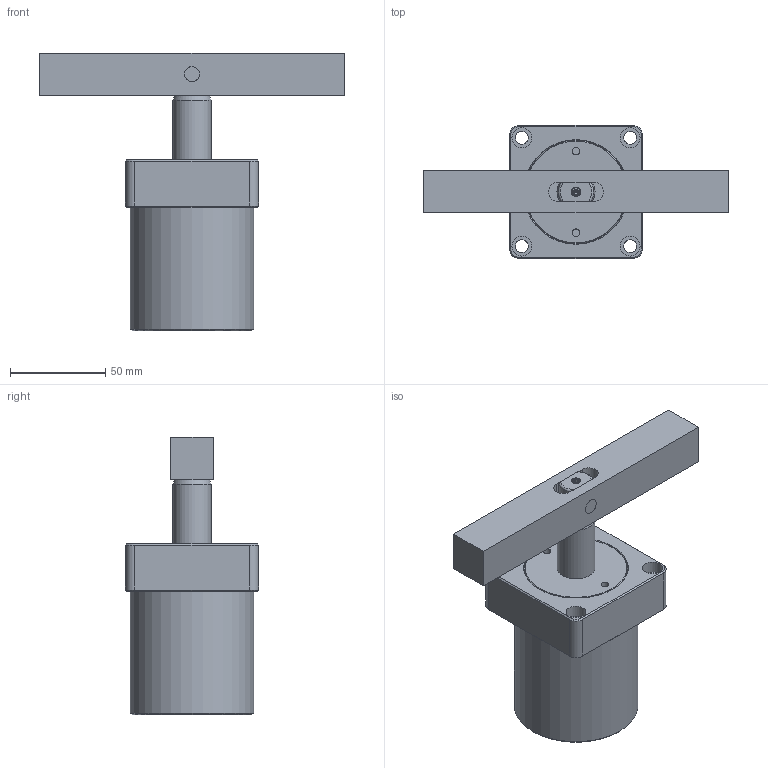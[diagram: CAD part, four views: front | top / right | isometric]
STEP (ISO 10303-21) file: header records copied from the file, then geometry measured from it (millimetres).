
FILE_DESCRIPTION(/* description */ ('Unknown'),/* implementation_level */ '2;1');
FILE_NAME(/* name */ 'ASC-FA50D-B',/* time_stamp */ '2019-05-20T10:28:48+08:00',/* author */ ('Unknown'),/* organization */ ('Unknown'),/* preprocessor_version */ 'ST-DEVELOPER v16.7',/* originating_system */ 'DEX',/* authorisation */ $);
FILE_SCHEMA (('AUTOMOTIVE_DESIGN {1 0 10303 214 3 1 1}'));
Length unit declared in the file: millimetre
Products named in the file (5): ASC-FA50D-B; ASC-FA50D-CYLINDER; ASC-5002-D-AXLE CENTRE; ASC-50D-B; ASC-5002-D-FIXED PIN
Assembly tree (4 placements, depth 2):
  ASC-FA50D-B
    ASC-FA50D-CYLINDER
    ASC-5002-D-AXLE CENTRE
    ASC-50D-B
    ASC-5002-D-FIXED PIN
Bounding box: 160 x 70 x 146.2 mm (x, y, z)
Volume: 359548.4 mm3; surface area: 72461.1 mm2
Topology: 4 solids, 4 shells, 114 faces, 240 edges, 149 vertices
Faces by surface type: plane 51, cylinder 29, cone 18, bspline 12, torus 4
Full cylindrical faces by diameter (mm): 4.1 x2, 6.8 x4, 8 x4, 9.147 x2, 10.5 x4, 20 x2, 50 x2, 65 x1
Entity records: 3401 total; most frequent: CARTESIAN_POINT 633, DIRECTION 484, ORIENTED_EDGE 382, AXIS2_PLACEMENT_3D 202, EDGE_CURVE 191, EDGE_LOOP 178, FACE_BOUND 178, VERTEX_POINT 133
